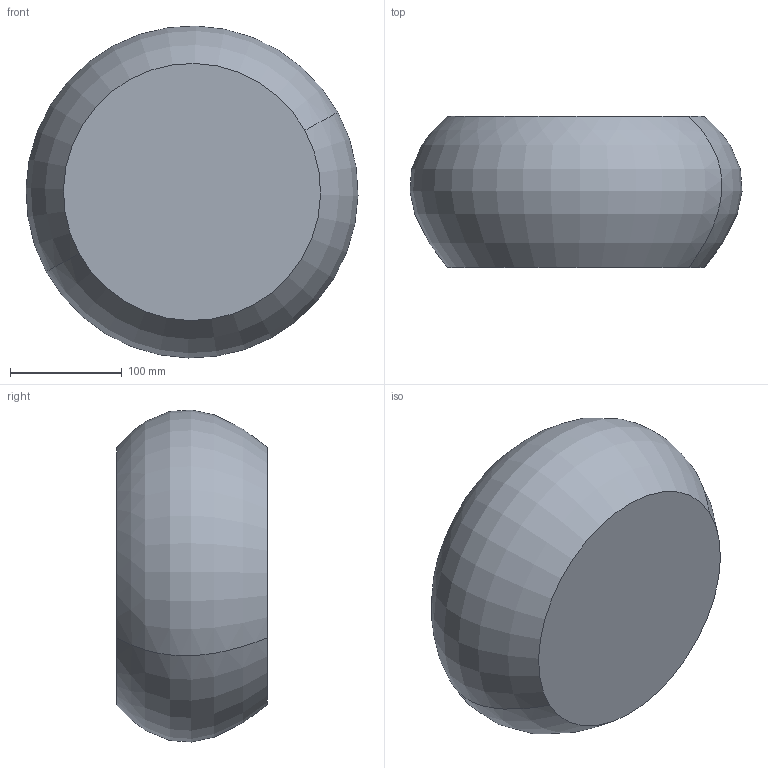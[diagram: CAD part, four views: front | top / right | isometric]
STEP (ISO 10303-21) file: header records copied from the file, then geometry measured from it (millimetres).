
FILE_DESCRIPTION(('CATIA V5 STEP Exchange'),'2;1');
FILE_NAME('C:\_Andres\UNIVERSIDAD\IQS\ASIGNATURAS\DAO\EXF\EXF-15161c\1original\Segura_Sánchez_Ej10-decora_v25.stp','2016-03-04T22:24:14+00:00',('none'),('none'),'CATIA Version 5 Release 20 SP 1 (IN-10)','CATIA V5 STEP AP203','none');
FILE_SCHEMA(('CONFIG_CONTROL_DESIGN'));
Length unit declared in the file: millimetre
Products named in the file (1): Segura_Sánchez_Ej10-decora_v25
Bounding box: 296.93 x 135 x 296.93 mm (x, y, z)
Volume: 8057976.7 mm3; surface area: 215969.8 mm2
Topology: 1 solids, 1 shells, 4 faces, 6 edges, 4 vertices
Faces by surface type: revolution 2, plane 2
Entity records: 166 total; most frequent: CARTESIAN_POINT 50, DIRECTION 12, ORIENTED_EDGE 12, AXIS2_PLACEMENT_3D 8, EDGE_CURVE 6, ADVANCED_FACE 4, B_SPLINE_CURVE_WITH_KNOTS 4, CC_DESIGN_PERSON_AND_ORGANIZATION_ASSIGNMENT 4
